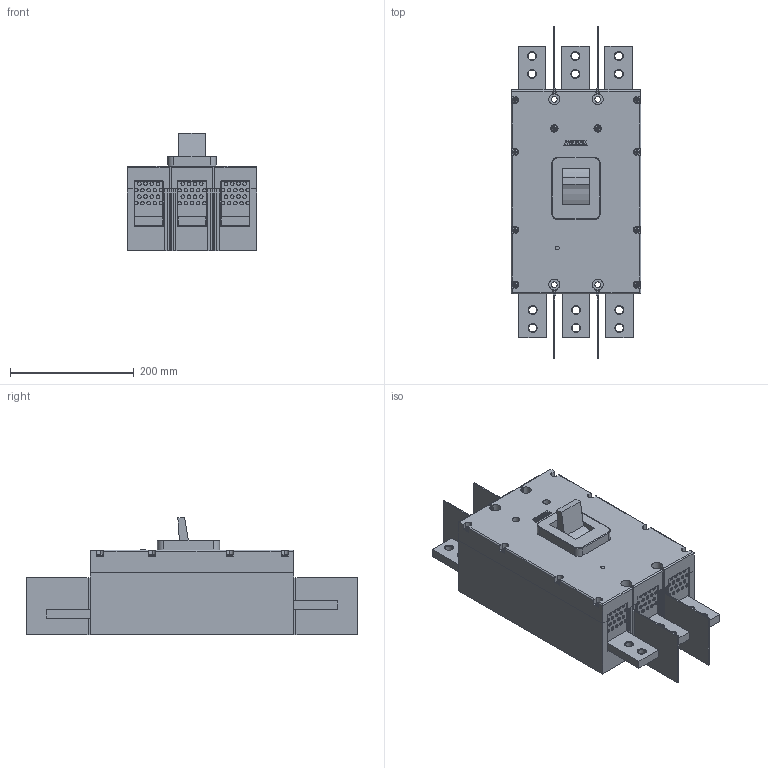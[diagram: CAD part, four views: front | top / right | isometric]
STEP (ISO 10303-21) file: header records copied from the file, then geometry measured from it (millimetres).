
FILE_DESCRIPTION(('FreeCAD Model'),'2;1');
FILE_NAME('Open CASCADE Shape Model','2022-08-23T12:02:05',( 'Engenharia Metaltex'),('Metaltex'), 'Open CASCADE STEP processor 7.5','FreeCAD','Unknown');
FILE_SCHEMA(('AUTOMOTIVE_DESIGN { 1 0 10303 214 1 1 1 1 }'));
Length unit declared in the file: millimetre
Products named in the file (30): DCM1250S e DCM1600S; B6; G4; G3; G2; Knob; Logo Pronto002; S10; S9; S8; S7; S6; S5; S4; S3; S2; S1; I1; I2; G005; G6; G5; I4; I3; Body097; Body098; Body099; Body101; Body100; Cut
Assembly tree (29 placements, depth 2):
  DCM1250S e DCM1600S
    B6
    G4
    G3
    G2
    Knob
    Logo Pronto002
    S10
    S9
    S8
    S7
    S6
    S5
    S4
    S3
    S2
    S1
    I1
    I2
    G005
    G6
    G5
    I4
    I3
    Body097
    Body098
    Body099
    Body101
    Body100
    Cut
Bounding box: 209 x 535.66 x 190.12 mm (x, y, z)
Volume: 9074516.9 mm3; surface area: 728115.4 mm2
Topology: 36 solids, 36 shells, 1525 faces, 4392 edges, 2920 vertices
Faces by surface type: plane 623, cylinder 318, cone 200, bspline 196, torus 148, revolution 40
Full cylindrical faces by diameter (mm): 5 x14, 5.8 x108, 6 x1, 6.3 x1, 9 x4, 12 x2, 12.7 x12, 14 x4
Entity records: 180737 total; most frequent: CARTESIAN_POINT 102659, DIRECTION 10789, ORIENTED_EDGE 8684, PCURVE 8684, DEFINITIONAL_REPRESENTATION 8684, B_SPLINE_CURVE_WITH_KNOTS 5764, LINE 5566, VECTOR 5566
